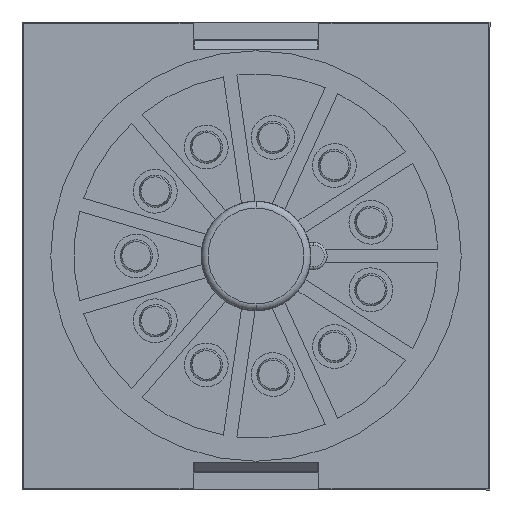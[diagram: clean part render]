
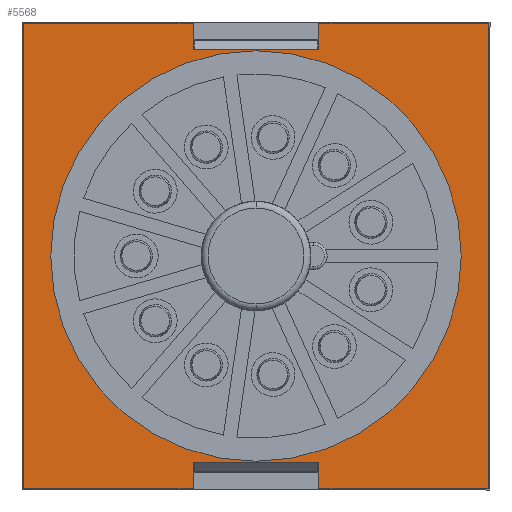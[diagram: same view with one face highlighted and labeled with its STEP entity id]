
A CAD part, left-side view. The second image highlights one B-rep face of the part: STEP entity #5568.
In plain terms, the highlighted planar face has unit normal (-1, 0, 0).
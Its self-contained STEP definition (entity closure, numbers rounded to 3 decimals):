
#15 = EDGE_CURVE ( 'NONE', #7312, #6852, #743, .T. ) ;
#50 = VERTEX_POINT ( 'NONE', #4368 ) ;
#72 = LINE ( 'NONE', #3861, #4749 ) ;
#101 = LINE ( 'NONE', #9899, #9169 ) ;
#265 = VERTEX_POINT ( 'NONE', #5119 ) ;
#269 = LINE ( 'NONE', #8343, #5202 ) ;
#393 = CARTESIAN_POINT ( 'NONE',  ( 17.298, 6.292, 15. ) ) ;
#411 = DIRECTION ( 'NONE',  ( -1., 0., 0. ) ) ;
#616 = CARTESIAN_POINT ( 'NONE',  ( 17.298, 23.292, -17. ) ) ;
#703 = CARTESIAN_POINT ( 'NONE',  ( 17.298, -10.708, -17. ) ) ;
#743 = LINE ( 'NONE', #3433, #9845 ) ;
#870 = DIRECTION ( 'NONE',  ( 0., -1., 0. ) ) ;
#952 = ORIENTED_EDGE ( 'NONE', *, *, #5036, .F. ) ;
#1064 = CARTESIAN_POINT ( 'NONE',  ( 17.298, -10.708, 17. ) ) ;
#1211 = VECTOR ( 'NONE', #2060, 1000. ) ;
#1330 = CARTESIAN_POINT ( 'NONE',  ( 17.298, 10.892, 17. ) ) ;
#1352 = CARTESIAN_POINT ( 'NONE',  ( 17.298, 10.892, -15.1 ) ) ;
#1670 = EDGE_CURVE ( 'NONE', #50, #6852, #11185, .T. ) ;
#1754 = EDGE_CURVE ( 'NONE', #5324, #3323, #7721, .T. ) ;
#1789 = EDGE_LOOP ( 'NONE', ( #5178, #2831 ) ) ;
#2028 = LINE ( 'NONE', #2180, #4640 ) ;
#2060 = DIRECTION ( 'NONE',  ( 0., 0., 1. ) ) ;
#2080 = EDGE_CURVE ( 'NONE', #3323, #3605, #7297, .T. ) ;
#2095 = CARTESIAN_POINT ( 'NONE',  ( 17.298, -10.708, 17. ) ) ;
#2180 = CARTESIAN_POINT ( 'NONE',  ( 17.298, 10.942, 17. ) ) ;
#2494 = DIRECTION ( 'NONE',  ( 0., 0., -1. ) ) ;
#2537 = AXIS2_PLACEMENT_3D ( 'NONE', #6519, #411, #8247 ) ;
#2664 = EDGE_CURVE ( 'NONE', #10262, #4734, #5079, .T. ) ;
#2831 = ORIENTED_EDGE ( 'NONE', *, *, #9491, .F. ) ;
#2878 = LINE ( 'NONE', #2095, #3150 ) ;
#2892 = FACE_BOUND ( 'NONE', #1789, .T. ) ;
#3098 = DIRECTION ( 'NONE',  ( 0., 0., 1. ) ) ;
#3150 = VECTOR ( 'NONE', #6113, 1000. ) ;
#3200 = ORIENTED_EDGE ( 'NONE', *, *, #9723, .F. ) ;
#3323 = VERTEX_POINT ( 'NONE', #9669 ) ;
#3372 = ORIENTED_EDGE ( 'NONE', *, *, #2080, .F. ) ;
#3433 = CARTESIAN_POINT ( 'NONE',  ( 17.298, 10.942, 15.1 ) ) ;
#3435 = DIRECTION ( 'NONE',  ( -1., 0., 0. ) ) ;
#3442 = PLANE ( 'NONE',  #2537 ) ;
#3449 = ORIENTED_EDGE ( 'NONE', *, *, #1754, .F. ) ;
#3450 = LINE ( 'NONE', #4876, #8135 ) ;
#3509 = DIRECTION ( 'NONE',  ( 0., 1., 0. ) ) ;
#3516 = CARTESIAN_POINT ( 'NONE',  ( 17.298, 10.892, 15.1 ) ) ;
#3535 = LINE ( 'NONE', #9093, #1211 ) ;
#3605 = VERTEX_POINT ( 'NONE', #4547 ) ;
#3858 = ORIENTED_EDGE ( 'NONE', *, *, #8692, .F. ) ;
#3861 = CARTESIAN_POINT ( 'NONE',  ( 17.298, -10.708, -17. ) ) ;
#4165 = DIRECTION ( 'NONE',  ( 0., 0., -1. ) ) ;
#4284 = CARTESIAN_POINT ( 'NONE',  ( 17.298, 1.642, -15.1 ) ) ;
#4302 = DIRECTION ( 'NONE',  ( -1., 0., 0. ) ) ;
#4368 = CARTESIAN_POINT ( 'NONE',  ( 17.298, 1.692, 17. ) ) ;
#4547 = CARTESIAN_POINT ( 'NONE',  ( 17.298, 10.892, -17. ) ) ;
#4589 = EDGE_CURVE ( 'NONE', #9739, #7312, #3450, .T. ) ;
#4640 = VECTOR ( 'NONE', #8328, 1000. ) ;
#4701 = VECTOR ( 'NONE', #4743, 1000. ) ;
#4734 = VERTEX_POINT ( 'NONE', #6369 ) ;
#4743 = DIRECTION ( 'NONE',  ( 0., 0., -1. ) ) ;
#4749 = VECTOR ( 'NONE', #6528, 1000. ) ;
#4876 = CARTESIAN_POINT ( 'NONE',  ( 17.298, 10.892, 21.752 ) ) ;
#5026 = VERTEX_POINT ( 'NONE', #1064 ) ;
#5036 = EDGE_CURVE ( 'NONE', #5026, #11139, #8122, .T. ) ;
#5077 = CIRCLE ( 'NONE', #6274, 15. ) ;
#5079 = CIRCLE ( 'NONE', #8681, 15. ) ;
#5119 = CARTESIAN_POINT ( 'NONE',  ( 17.298, 1.692, -17. ) ) ;
#5178 = ORIENTED_EDGE ( 'NONE', *, *, #2664, .F. ) ;
#5202 = VECTOR ( 'NONE', #3098, 1000. ) ;
#5324 = VERTEX_POINT ( 'NONE', #10399 ) ;
#5494 = ORIENTED_EDGE ( 'NONE', *, *, #7095, .F. ) ;
#5500 = FACE_OUTER_BOUND ( 'NONE', #8686, .T. ) ;
#5568 = ADVANCED_FACE ( 'NONE', ( #5500, #2892 ), #3442, .T. ) ;
#5763 = DIRECTION ( 'NONE',  ( 0., 0., -1. ) ) ;
#6054 = EDGE_CURVE ( 'NONE', #50, #5026, #2878, .T. ) ;
#6113 = DIRECTION ( 'NONE',  ( 0., -1., 0. ) ) ;
#6274 = AXIS2_PLACEMENT_3D ( 'NONE', #8698, #3435, #9600 ) ;
#6329 = ORIENTED_EDGE ( 'NONE', *, *, #4589, .F. ) ;
#6369 = CARTESIAN_POINT ( 'NONE',  ( 17.298, 6.292, -15. ) ) ;
#6468 = CARTESIAN_POINT ( 'NONE',  ( 17.298, 1.692, 21.752 ) ) ;
#6490 = VECTOR ( 'NONE', #2494, 1000. ) ;
#6519 = CARTESIAN_POINT ( 'NONE',  ( 17.298, 10.942, -17. ) ) ;
#6528 = DIRECTION ( 'NONE',  ( 0., 1., 0. ) ) ;
#6550 = ORIENTED_EDGE ( 'NONE', *, *, #1670, .T. ) ;
#6770 = VERTEX_POINT ( 'NONE', #616 ) ;
#6852 = VERTEX_POINT ( 'NONE', #8718 ) ;
#6940 = ORIENTED_EDGE ( 'NONE', *, *, #6054, .F. ) ;
#7095 = EDGE_CURVE ( 'NONE', #7924, #9739, #2028, .T. ) ;
#7297 = LINE ( 'NONE', #1352, #4701 ) ;
#7312 = VERTEX_POINT ( 'NONE', #3516 ) ;
#7721 = LINE ( 'NONE', #4284, #7999 ) ;
#7924 = VERTEX_POINT ( 'NONE', #9688 ) ;
#7999 = VECTOR ( 'NONE', #3509, 1000. ) ;
#8122 = LINE ( 'NONE', #10103, #8385 ) ;
#8135 = VECTOR ( 'NONE', #10178, 1000. ) ;
#8156 = DIRECTION ( 'NONE',  ( 0., 1., 0. ) ) ;
#8247 = DIRECTION ( 'NONE',  ( 0., 1., 0. ) ) ;
#8303 = CARTESIAN_POINT ( 'NONE',  ( 17.298, 6.292, 0. ) ) ;
#8328 = DIRECTION ( 'NONE',  ( 0., -1., 0. ) ) ;
#8343 = CARTESIAN_POINT ( 'NONE',  ( 17.298, 1.692, -17. ) ) ;
#8385 = VECTOR ( 'NONE', #4165, 1000. ) ;
#8681 = AXIS2_PLACEMENT_3D ( 'NONE', #8303, #4302, #5763 ) ;
#8686 = EDGE_LOOP ( 'NONE', ( #10539, #3372, #3449, #3200, #3858, #952, #6940, #6550, #9904, #6329, #5494, #8813 ) ) ;
#8692 = EDGE_CURVE ( 'NONE', #11139, #265, #72, .T. ) ;
#8698 = CARTESIAN_POINT ( 'NONE',  ( 17.298, 6.292, 0. ) ) ;
#8718 = CARTESIAN_POINT ( 'NONE',  ( 17.298, 1.692, 15.1 ) ) ;
#8813 = ORIENTED_EDGE ( 'NONE', *, *, #10989, .F. ) ;
#9093 = CARTESIAN_POINT ( 'NONE',  ( 17.298, 23.292, -17. ) ) ;
#9169 = VECTOR ( 'NONE', #8156, 1000. ) ;
#9491 = EDGE_CURVE ( 'NONE', #4734, #10262, #5077, .T. ) ;
#9600 = DIRECTION ( 'NONE',  ( 0., 0., -1. ) ) ;
#9669 = CARTESIAN_POINT ( 'NONE',  ( 17.298, 10.892, -15.1 ) ) ;
#9688 = CARTESIAN_POINT ( 'NONE',  ( 17.298, 23.292, 17. ) ) ;
#9723 = EDGE_CURVE ( 'NONE', #265, #5324, #269, .T. ) ;
#9739 = VERTEX_POINT ( 'NONE', #1330 ) ;
#9845 = VECTOR ( 'NONE', #870, 1000. ) ;
#9899 = CARTESIAN_POINT ( 'NONE',  ( 17.298, 10.942, -17. ) ) ;
#9904 = ORIENTED_EDGE ( 'NONE', *, *, #15, .F. ) ;
#10103 = CARTESIAN_POINT ( 'NONE',  ( 17.298, -10.708, -17. ) ) ;
#10178 = DIRECTION ( 'NONE',  ( 0., 0., -1. ) ) ;
#10262 = VERTEX_POINT ( 'NONE', #393 ) ;
#10399 = CARTESIAN_POINT ( 'NONE',  ( 17.298, 1.692, -15.1 ) ) ;
#10539 = ORIENTED_EDGE ( 'NONE', *, *, #11395, .F. ) ;
#10989 = EDGE_CURVE ( 'NONE', #6770, #7924, #3535, .T. ) ;
#11139 = VERTEX_POINT ( 'NONE', #703 ) ;
#11185 = LINE ( 'NONE', #6468, #6490 ) ;
#11395 = EDGE_CURVE ( 'NONE', #3605, #6770, #101, .T. ) ;
